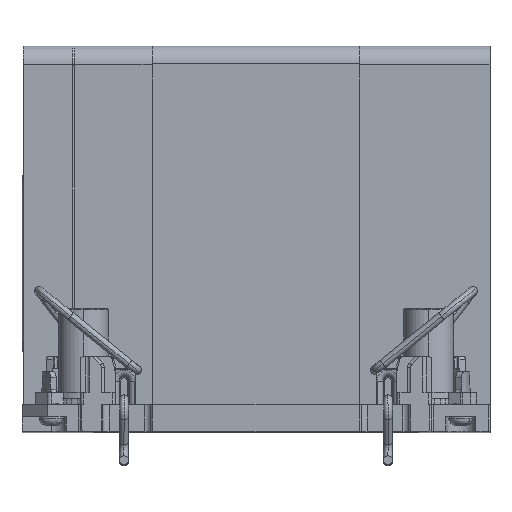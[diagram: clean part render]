
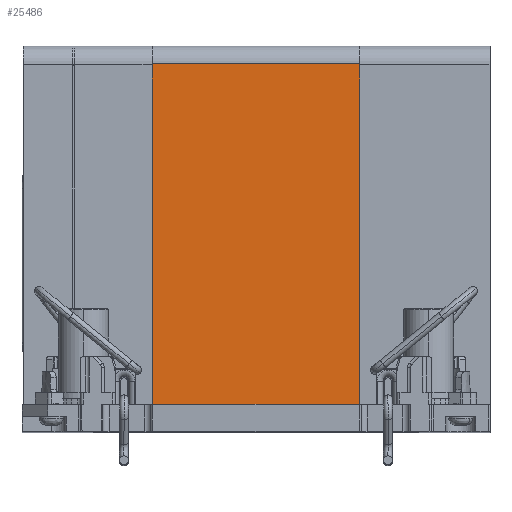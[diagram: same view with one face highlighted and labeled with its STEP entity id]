
A CAD part, top view. The second image highlights one B-rep face of the part: STEP entity #25486.
In plain terms, the highlighted planar face has unit normal (0, 0, 1).
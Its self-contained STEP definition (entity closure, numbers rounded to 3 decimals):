
#452=DIRECTION('',(1.,0.,0.));
#453=VECTOR('',#452,34.65);
#454=CARTESIAN_POINT('',(-17.325,1.5,56.5));
#455=LINE('',#454,#453);
#1175=DIRECTION('',(0.,1.,0.));
#1176=VECTOR('',#1175,56.75);
#1177=CARTESIAN_POINT('',(17.325,1.5,56.5));
#1178=LINE('',#1177,#1176);
#1198=DIRECTION('',(0.,-1.,0.));
#1199=VECTOR('',#1198,56.75);
#1200=CARTESIAN_POINT('',(-17.325,58.25,56.5));
#1201=LINE('',#1200,#1199);
#1666=DIRECTION('',(-1.,0.,0.));
#1667=VECTOR('',#1666,34.65);
#1668=CARTESIAN_POINT('',(17.325,58.25,56.5));
#1669=LINE('',#1668,#1667);
#19965=CARTESIAN_POINT('',(-17.325,1.5,56.5));
#19966=VERTEX_POINT('',#19965);
#19967=CARTESIAN_POINT('',(17.325,1.5,56.5));
#19968=VERTEX_POINT('',#19967);
#24113=CARTESIAN_POINT('',(17.325,58.25,56.5));
#24114=VERTEX_POINT('',#24113);
#24121=CARTESIAN_POINT('',(-17.325,58.25,56.5));
#24122=VERTEX_POINT('',#24121);
#25473=CARTESIAN_POINT('',(-16.5,29.75,56.5));
#25474=DIRECTION('',(0.,0.,1.));
#25475=DIRECTION('',(0.,1.,0.));
#25476=AXIS2_PLACEMENT_3D('',#25473,#25474,#25475);
#25477=PLANE('',#25476);
#25479=ORIENTED_EDGE('',*,*,#25478,.F.);
#25481=ORIENTED_EDGE('',*,*,#25480,.F.);
#25482=ORIENTED_EDGE('',*,*,#25466,.F.);
#25483=ORIENTED_EDGE('',*,*,#24945,.F.);
#25484=EDGE_LOOP('',(#25479,#25481,#25482,#25483));
#25485=FACE_OUTER_BOUND('',#25484,.F.);
#25486=ADVANCED_FACE('',(#25485),#25477,.T.);
#24945=EDGE_CURVE('',#19966,#19968,#455,.T.);
#25466=EDGE_CURVE('',#19968,#24114,#1178,.T.);
#25478=EDGE_CURVE('',#24122,#19966,#1201,.T.);
#25480=EDGE_CURVE('',#24114,#24122,#1669,.T.);
